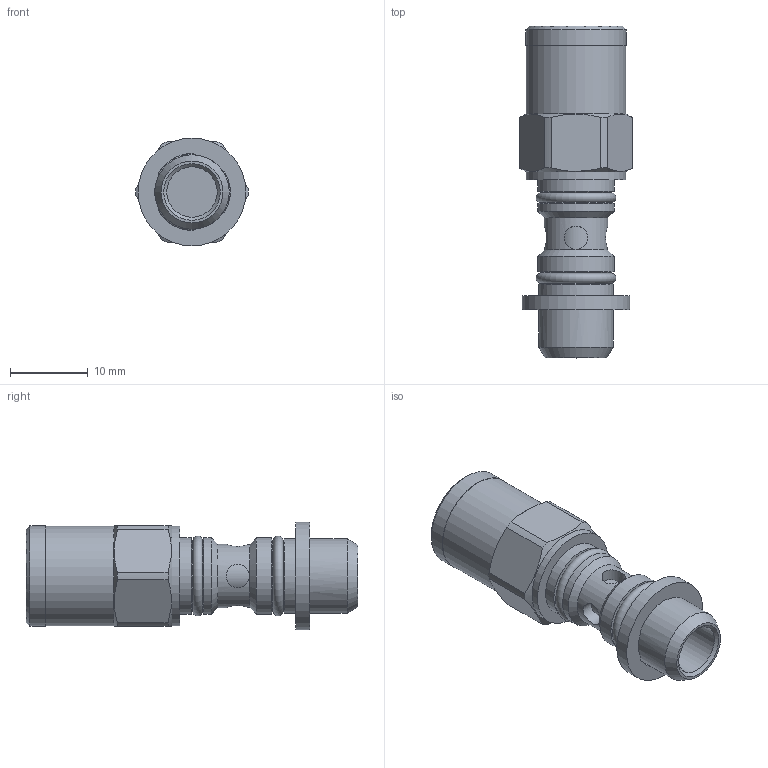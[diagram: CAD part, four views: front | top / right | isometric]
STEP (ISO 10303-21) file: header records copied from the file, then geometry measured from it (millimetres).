
FILE_DESCRIPTION( ( 'STEP AP214' ), '1' );
FILE_NAME( 'p:/temp/worker_34/temp/exporttempdir_4244_68_QCUqB/format_0/04350B01.stp', '2021-04-20T09:21:59', ( 'License CC BY-ND 4.0' ), ( 'CADENAS' ), ' ', 'PARTsolutions', ' ' );
FILE_SCHEMA( ( 'AUTOMOTIVE_DESIGN { 1 0 10303 214 1 1 1 1 }' ) );
Length unit declared in the file: millimetre
Products named in the file (2): 04350B01; Rivoluzione1
Assembly tree (1 placements, depth 2):
  04350B01
    Rivoluzione1
Bounding box: 14.5 x 42.8 x 13.9 mm (x, y, z)
Volume: 3874.9 mm3; surface area: 2620.4 mm2
Topology: 1 solids, 1 shells, 73 faces, 185 edges, 121 vertices
Faces by surface type: cylinder 32, plane 23, cone 12, torus 6
Full cylindrical faces by diameter (mm): 1 x1, 3 x4, 4.2 x1, 6.5 x1, 8.05 x4, 8.2 x1, 9.6 x1, 9.85 x3, 9.9 x1, 12.8 x2, 12.9 x1, 13.9 x1
Entity records: 3015 total; most frequent: CARTESIAN_POINT 848, DIRECTION 302, ORIENTED_EDGE 280, EDGE_CURVE 140, AXIS2_PLACEMENT_3D 133, EDGE_LOOP 126, VERTEX_POINT 118, FACE_OUTER_BOUND 100
